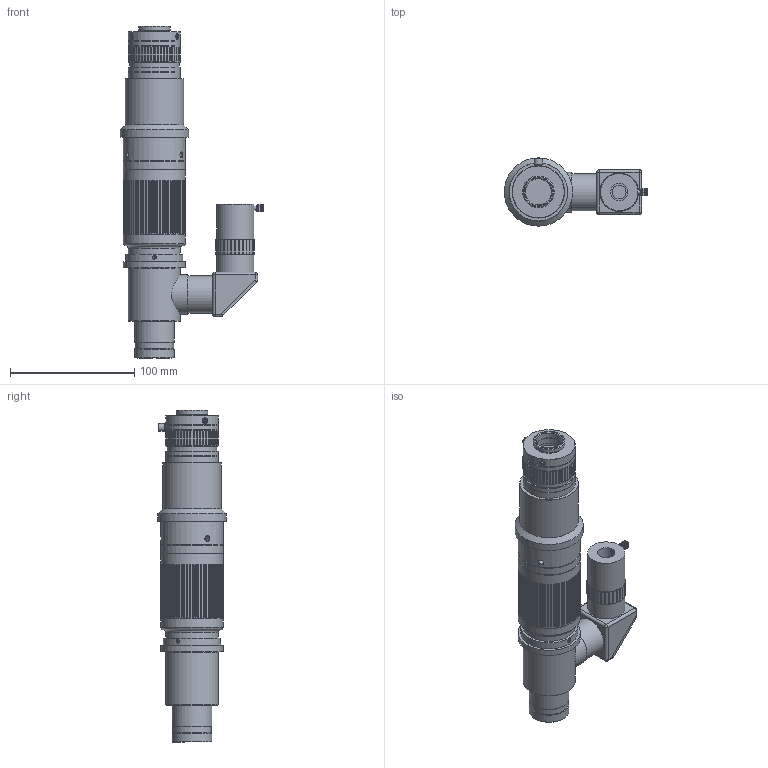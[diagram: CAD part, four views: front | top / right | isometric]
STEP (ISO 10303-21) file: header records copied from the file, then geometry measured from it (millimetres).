
FILE_DESCRIPTION(('STEP AP214'),'1');
FILE_NAME('SDS-KZH.stp','2026-03-30T06:05:53',(' '),(' '),'Spatial InterOp 3D',' ',' ');
FILE_SCHEMA(('AUTOMOTIVE_DESIGN { 1 0 10303 214 1 1 1 1 }'));
Length unit declared in the file: metre
Products named in the file (5): Component1; Component11; Component12; Component13; SDS-KZH
Assembly tree (4 placements, depth 3):
  SDS-KZH
    Component1
      Component11
      Component12
      Component13
Bounding box: 115.5 x 55 x 267 mm (x, y, z)
Volume: 443126.7 mm3; surface area: 77300.9 mm2
Topology: 3 solids, 3 shells, 1667 faces, 3940 edges, 2446 vertices
Faces by surface type: cylinder 696, sphere 482, plane 427, cone 52, bspline 7, torus 2, offset 1
Full cylindrical faces by diameter (mm): 3 x6, 4 x6, 5 x1, 6.3 x1, 11 x1, 14 x1, 21 x2, 22 x1, 23 x1, 24.2 x1, 25 x4, 25.4 x1, 26 x3, 30 x4, 31 x1, 32 x4, 34 x3, 39.8 x1, 42 x7, 46 x1, 47 x1, 50 x5, 55 x1
Entity records: 85910 total; most frequent: CARTESIAN_POINT 17241, ORIENTED_EDGE 7548, DIRECTION 7396, STYLED_ITEM 5425, PRESENTATION_STYLE_ASSIGNMENT 5425, COLOUR_RGB 5425, EDGE_CURVE 3774, CURVE_STYLE 3756
